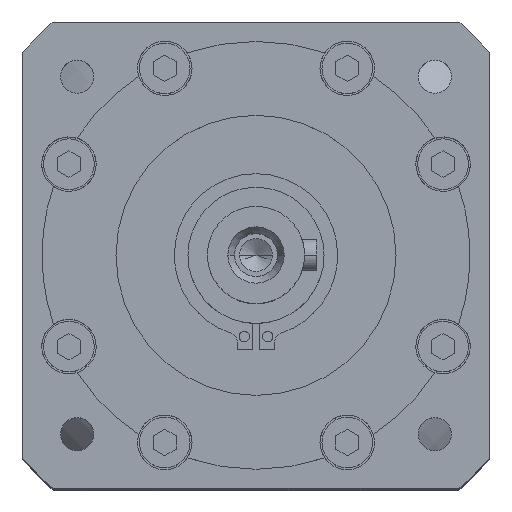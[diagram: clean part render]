
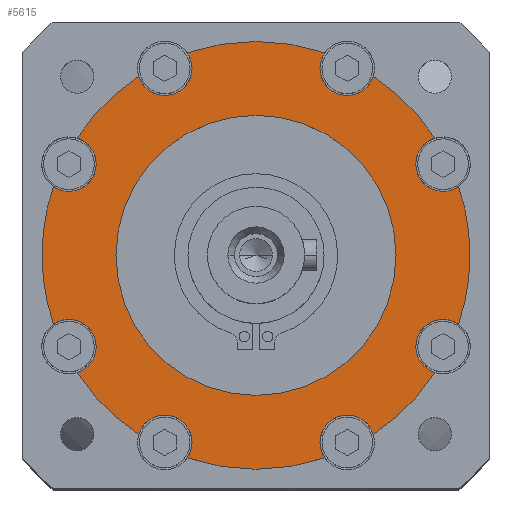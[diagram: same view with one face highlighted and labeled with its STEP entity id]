
A CAD part, top view. The second image highlights one B-rep face of the part: STEP entity #5615.
In plain terms, the highlighted planar face has unit normal (0, 0, 1).
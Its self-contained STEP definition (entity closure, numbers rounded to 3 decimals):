
#2824 = VERTEX_POINT('',#2825);
#2825 = CARTESIAN_POINT('',(-55.,0.,0.));
#2833 = EDGE_CURVE('',#2834,#2824,#2836,.T.);
#2834 = VERTEX_POINT('',#2835);
#2835 = CARTESIAN_POINT('',(-52.074,17.7,0.));
#2836 = CIRCLE('',#2837,55.);
#2837 = AXIS2_PLACEMENT_3D('',#2838,#2839,#2840);
#2838 = CARTESIAN_POINT('',(0.,0.,0.));
#2839 = DIRECTION('',(0.,-0.,1.));
#2840 = DIRECTION('',(1.,0.,0.));
#3782 = VERTEX_POINT('',#3783);
#3783 = CARTESIAN_POINT('',(-46.008,-30.137,0.));
#3816 = VERTEX_POINT('',#3817);
#3817 = CARTESIAN_POINT('',(-41.085,-23.453,0.));
#3823 = EDGE_CURVE('',#3782,#3816,#3824,.T.);
#3824 = CIRCLE('',#3825,7.);
#3825 = AXIS2_PLACEMENT_3D('',#3826,#3827,#3828);
#3826 = CARTESIAN_POINT('',(-48.085,-23.453,0.));
#3827 = DIRECTION('',(0.,0.,1.));
#3828 = DIRECTION('',(-1.,0.,0.));
#3841 = VERTEX_POINT('',#3842);
#3842 = CARTESIAN_POINT('',(-17.7,-52.074,0.));
#3875 = VERTEX_POINT('',#3876);
#3876 = CARTESIAN_POINT('',(-16.453,-48.085,0.));
#3882 = EDGE_CURVE('',#3841,#3875,#3883,.T.);
#3883 = CIRCLE('',#3884,7.);
#3884 = AXIS2_PLACEMENT_3D('',#3885,#3886,#3887);
#3885 = CARTESIAN_POINT('',(-23.453,-48.085,0.));
#3886 = DIRECTION('',(0.,0.,1.));
#3887 = DIRECTION('',(-1.,0.,0.));
#3942 = VERTEX_POINT('',#3943);
#3943 = CARTESIAN_POINT('',(46.008,-30.137,0.));
#3949 = EDGE_CURVE('',#3942,#3950,#3952,.T.);
#3950 = VERTEX_POINT('',#3951);
#3951 = CARTESIAN_POINT('',(41.085,-23.453,0.));
#3952 = CIRCLE('',#3953,7.);
#3953 = AXIS2_PLACEMENT_3D('',#3954,#3955,#3956);
#3954 = CARTESIAN_POINT('',(48.085,-23.453,0.));
#3955 = DIRECTION('',(0.,0.,-1.));
#3956 = DIRECTION('',(-1.,0.,0.));
#4001 = VERTEX_POINT('',#4002);
#4002 = CARTESIAN_POINT('',(17.7,-52.074,0.));
#4008 = EDGE_CURVE('',#4001,#4009,#4011,.T.);
#4009 = VERTEX_POINT('',#4010);
#4010 = CARTESIAN_POINT('',(16.453,-48.085,0.));
#4011 = CIRCLE('',#4012,7.);
#4012 = AXIS2_PLACEMENT_3D('',#4013,#4014,#4015);
#4013 = CARTESIAN_POINT('',(23.453,-48.085,0.));
#4014 = DIRECTION('',(0.,0.,-1.));
#4015 = DIRECTION('',(-1.,0.,0.));
#4127 = VERTEX_POINT('',#4128);
#4128 = CARTESIAN_POINT('',(-41.085,23.453,0.));
#4134 = EDGE_CURVE('',#4127,#2834,#4135,.T.);
#4135 = CIRCLE('',#4136,7.);
#4136 = AXIS2_PLACEMENT_3D('',#4137,#4138,#4139);
#4137 = CARTESIAN_POINT('',(-48.085,23.453,0.));
#4138 = DIRECTION('',(0.,0.,-1.));
#4139 = DIRECTION('',(-1.,0.,0.));
#4150 = VERTEX_POINT('',#4151);
#4151 = CARTESIAN_POINT('',(-30.137,46.008,0.));
#4186 = VERTEX_POINT('',#4187);
#4187 = CARTESIAN_POINT('',(-16.453,48.085,0.));
#4193 = EDGE_CURVE('',#4186,#4150,#4194,.T.);
#4194 = CIRCLE('',#4195,7.);
#4195 = AXIS2_PLACEMENT_3D('',#4196,#4197,#4198);
#4196 = CARTESIAN_POINT('',(-23.453,48.085,0.));
#4197 = DIRECTION('',(0.,0.,-1.));
#4198 = DIRECTION('',(-1.,0.,0.));
#4251 = VERTEX_POINT('',#4252);
#4252 = CARTESIAN_POINT('',(52.074,17.7,0.));
#4260 = EDGE_CURVE('',#4261,#4251,#4263,.T.);
#4261 = VERTEX_POINT('',#4262);
#4262 = CARTESIAN_POINT('',(41.085,23.453,0.));
#4263 = CIRCLE('',#4264,7.);
#4264 = AXIS2_PLACEMENT_3D('',#4265,#4266,#4267);
#4265 = CARTESIAN_POINT('',(48.085,23.453,0.));
#4266 = DIRECTION('',(0.,0.,1.));
#4267 = DIRECTION('',(-1.,0.,0.));
#4310 = VERTEX_POINT('',#4311);
#4311 = CARTESIAN_POINT('',(30.137,46.008,0.));
#4319 = EDGE_CURVE('',#4320,#4310,#4322,.T.);
#4320 = VERTEX_POINT('',#4321);
#4321 = CARTESIAN_POINT('',(16.453,48.085,0.));
#4322 = CIRCLE('',#4323,7.);
#4323 = AXIS2_PLACEMENT_3D('',#4324,#4325,#4326);
#4324 = CARTESIAN_POINT('',(23.453,48.085,0.));
#4325 = DIRECTION('',(0.,0.,1.));
#4326 = DIRECTION('',(-1.,0.,0.));
#4422 = VERTEX_POINT('',#4423);
#4423 = CARTESIAN_POINT('',(55.,0.,0.));
#4429 = EDGE_CURVE('',#4430,#4422,#4432,.T.);
#4430 = VERTEX_POINT('',#4431);
#4431 = CARTESIAN_POINT('',(52.074,-17.7,0.));
#4432 = CIRCLE('',#4433,55.);
#4433 = AXIS2_PLACEMENT_3D('',#4434,#4435,#4436);
#4434 = CARTESIAN_POINT('',(0.,0.,0.));
#4435 = DIRECTION('',(0.,-0.,1.));
#4436 = DIRECTION('',(1.,0.,0.));
#4455 = VERTEX_POINT('',#4456);
#4456 = CARTESIAN_POINT('',(36.,0.,0.));
#4462 = EDGE_CURVE('',#4463,#4455,#4465,.T.);
#4463 = VERTEX_POINT('',#4464);
#4464 = CARTESIAN_POINT('',(-36.,0.,0.));
#4465 = CIRCLE('',#4466,36.);
#4466 = AXIS2_PLACEMENT_3D('',#4467,#4468,#4469);
#4467 = CARTESIAN_POINT('',(0.,0.,0.));
#4468 = DIRECTION('',(0.,-0.,1.));
#4469 = DIRECTION('',(1.,0.,0.));
#5322 = EDGE_CURVE('',#4455,#4463,#5323,.T.);
#5323 = CIRCLE('',#5324,36.);
#5324 = AXIS2_PLACEMENT_3D('',#5325,#5326,#5327);
#5325 = CARTESIAN_POINT('',(0.,0.,0.));
#5326 = DIRECTION('',(0.,-0.,1.));
#5327 = DIRECTION('',(1.,0.,0.));
#5351 = VERTEX_POINT('',#5352);
#5352 = CARTESIAN_POINT('',(-30.137,-46.008,0.));
#5358 = EDGE_CURVE('',#3782,#5351,#5359,.T.);
#5359 = CIRCLE('',#5360,55.);
#5360 = AXIS2_PLACEMENT_3D('',#5361,#5362,#5363);
#5361 = CARTESIAN_POINT('',(0.,0.,0.));
#5362 = DIRECTION('',(0.,-0.,1.));
#5363 = DIRECTION('',(1.,0.,0.));
#5615 = ADVANCED_FACE('',(#5616,#5746),#5750,.F.);
#5616 = FACE_BOUND('',#5617,.T.);
#5617 = EDGE_LOOP('',(#5618,#5619,#5620,#5627,#5628,#5635,#5636,#5645,
    #5652,#5653,#5660,#5661,#5668,#5669,#5678,#5685,#5686,#5695,#5704,
    #5711,#5712,#5721,#5728,#5729,#5730,#5739));
#5618 = ORIENTED_EDGE('',*,*,#3823,.F.);
#5619 = ORIENTED_EDGE('',*,*,#5358,.T.);
#5620 = ORIENTED_EDGE('',*,*,#5621,.F.);
#5621 = EDGE_CURVE('',#3875,#5351,#5622,.T.);
#5622 = CIRCLE('',#5623,7.);
#5623 = AXIS2_PLACEMENT_3D('',#5624,#5625,#5626);
#5624 = CARTESIAN_POINT('',(-23.453,-48.085,0.));
#5625 = DIRECTION('',(0.,0.,1.));
#5626 = DIRECTION('',(-1.,0.,0.));
#5627 = ORIENTED_EDGE('',*,*,#3882,.F.);
#5628 = ORIENTED_EDGE('',*,*,#5629,.T.);
#5629 = EDGE_CURVE('',#3841,#4001,#5630,.T.);
#5630 = CIRCLE('',#5631,55.);
#5631 = AXIS2_PLACEMENT_3D('',#5632,#5633,#5634);
#5632 = CARTESIAN_POINT('',(0.,0.,0.));
#5633 = DIRECTION('',(0.,-0.,1.));
#5634 = DIRECTION('',(1.,0.,0.));
#5635 = ORIENTED_EDGE('',*,*,#4008,.T.);
#5636 = ORIENTED_EDGE('',*,*,#5637,.T.);
#5637 = EDGE_CURVE('',#4009,#5638,#5640,.T.);
#5638 = VERTEX_POINT('',#5639);
#5639 = CARTESIAN_POINT('',(30.137,-46.008,0.));
#5640 = CIRCLE('',#5641,7.);
#5641 = AXIS2_PLACEMENT_3D('',#5642,#5643,#5644);
#5642 = CARTESIAN_POINT('',(23.453,-48.085,0.));
#5643 = DIRECTION('',(0.,0.,-1.));
#5644 = DIRECTION('',(-1.,0.,0.));
#5645 = ORIENTED_EDGE('',*,*,#5646,.T.);
#5646 = EDGE_CURVE('',#5638,#3942,#5647,.T.);
#5647 = CIRCLE('',#5648,55.);
#5648 = AXIS2_PLACEMENT_3D('',#5649,#5650,#5651);
#5649 = CARTESIAN_POINT('',(0.,0.,0.));
#5650 = DIRECTION('',(0.,-0.,1.));
#5651 = DIRECTION('',(1.,0.,0.));
#5652 = ORIENTED_EDGE('',*,*,#3949,.T.);
#5653 = ORIENTED_EDGE('',*,*,#5654,.T.);
#5654 = EDGE_CURVE('',#3950,#4430,#5655,.T.);
#5655 = CIRCLE('',#5656,7.);
#5656 = AXIS2_PLACEMENT_3D('',#5657,#5658,#5659);
#5657 = CARTESIAN_POINT('',(48.085,-23.453,0.));
#5658 = DIRECTION('',(0.,0.,-1.));
#5659 = DIRECTION('',(-1.,0.,0.));
#5660 = ORIENTED_EDGE('',*,*,#4429,.T.);
#5661 = ORIENTED_EDGE('',*,*,#5662,.T.);
#5662 = EDGE_CURVE('',#4422,#4251,#5663,.T.);
#5663 = CIRCLE('',#5664,55.);
#5664 = AXIS2_PLACEMENT_3D('',#5665,#5666,#5667);
#5665 = CARTESIAN_POINT('',(0.,0.,0.));
#5666 = DIRECTION('',(0.,-0.,1.));
#5667 = DIRECTION('',(1.,0.,0.));
#5668 = ORIENTED_EDGE('',*,*,#4260,.F.);
#5669 = ORIENTED_EDGE('',*,*,#5670,.F.);
#5670 = EDGE_CURVE('',#5671,#4261,#5673,.T.);
#5671 = VERTEX_POINT('',#5672);
#5672 = CARTESIAN_POINT('',(46.008,30.137,0.));
#5673 = CIRCLE('',#5674,7.);
#5674 = AXIS2_PLACEMENT_3D('',#5675,#5676,#5677);
#5675 = CARTESIAN_POINT('',(48.085,23.453,0.));
#5676 = DIRECTION('',(0.,0.,1.));
#5677 = DIRECTION('',(-1.,0.,0.));
#5678 = ORIENTED_EDGE('',*,*,#5679,.T.);
#5679 = EDGE_CURVE('',#5671,#4310,#5680,.T.);
#5680 = CIRCLE('',#5681,55.);
#5681 = AXIS2_PLACEMENT_3D('',#5682,#5683,#5684);
#5682 = CARTESIAN_POINT('',(0.,0.,0.));
#5683 = DIRECTION('',(0.,-0.,1.));
#5684 = DIRECTION('',(1.,0.,0.));
#5685 = ORIENTED_EDGE('',*,*,#4319,.F.);
#5686 = ORIENTED_EDGE('',*,*,#5687,.F.);
#5687 = EDGE_CURVE('',#5688,#4320,#5690,.T.);
#5688 = VERTEX_POINT('',#5689);
#5689 = CARTESIAN_POINT('',(17.7,52.074,0.));
#5690 = CIRCLE('',#5691,7.);
#5691 = AXIS2_PLACEMENT_3D('',#5692,#5693,#5694);
#5692 = CARTESIAN_POINT('',(23.453,48.085,0.));
#5693 = DIRECTION('',(0.,0.,1.));
#5694 = DIRECTION('',(-1.,0.,0.));
#5695 = ORIENTED_EDGE('',*,*,#5696,.T.);
#5696 = EDGE_CURVE('',#5688,#5697,#5699,.T.);
#5697 = VERTEX_POINT('',#5698);
#5698 = CARTESIAN_POINT('',(-17.7,52.074,0.));
#5699 = CIRCLE('',#5700,55.);
#5700 = AXIS2_PLACEMENT_3D('',#5701,#5702,#5703);
#5701 = CARTESIAN_POINT('',(0.,0.,0.));
#5702 = DIRECTION('',(0.,-0.,1.));
#5703 = DIRECTION('',(1.,0.,0.));
#5704 = ORIENTED_EDGE('',*,*,#5705,.T.);
#5705 = EDGE_CURVE('',#5697,#4186,#5706,.T.);
#5706 = CIRCLE('',#5707,7.);
#5707 = AXIS2_PLACEMENT_3D('',#5708,#5709,#5710);
#5708 = CARTESIAN_POINT('',(-23.453,48.085,0.));
#5709 = DIRECTION('',(0.,0.,-1.));
#5710 = DIRECTION('',(-1.,0.,0.));
#5711 = ORIENTED_EDGE('',*,*,#4193,.T.);
#5712 = ORIENTED_EDGE('',*,*,#5713,.T.);
#5713 = EDGE_CURVE('',#4150,#5714,#5716,.T.);
#5714 = VERTEX_POINT('',#5715);
#5715 = CARTESIAN_POINT('',(-46.008,30.137,0.));
#5716 = CIRCLE('',#5717,55.);
#5717 = AXIS2_PLACEMENT_3D('',#5718,#5719,#5720);
#5718 = CARTESIAN_POINT('',(0.,0.,0.));
#5719 = DIRECTION('',(0.,-0.,1.));
#5720 = DIRECTION('',(1.,0.,0.));
#5721 = ORIENTED_EDGE('',*,*,#5722,.T.);
#5722 = EDGE_CURVE('',#5714,#4127,#5723,.T.);
#5723 = CIRCLE('',#5724,7.);
#5724 = AXIS2_PLACEMENT_3D('',#5725,#5726,#5727);
#5725 = CARTESIAN_POINT('',(-48.085,23.453,0.));
#5726 = DIRECTION('',(0.,0.,-1.));
#5727 = DIRECTION('',(-1.,0.,0.));
#5728 = ORIENTED_EDGE('',*,*,#4134,.T.);
#5729 = ORIENTED_EDGE('',*,*,#2833,.T.);
#5730 = ORIENTED_EDGE('',*,*,#5731,.T.);
#5731 = EDGE_CURVE('',#2824,#5732,#5734,.T.);
#5732 = VERTEX_POINT('',#5733);
#5733 = CARTESIAN_POINT('',(-52.074,-17.7,0.));
#5734 = CIRCLE('',#5735,55.);
#5735 = AXIS2_PLACEMENT_3D('',#5736,#5737,#5738);
#5736 = CARTESIAN_POINT('',(0.,0.,0.));
#5737 = DIRECTION('',(0.,-0.,1.));
#5738 = DIRECTION('',(1.,0.,0.));
#5739 = ORIENTED_EDGE('',*,*,#5740,.F.);
#5740 = EDGE_CURVE('',#3816,#5732,#5741,.T.);
#5741 = CIRCLE('',#5742,7.);
#5742 = AXIS2_PLACEMENT_3D('',#5743,#5744,#5745);
#5743 = CARTESIAN_POINT('',(-48.085,-23.453,0.));
#5744 = DIRECTION('',(0.,0.,1.));
#5745 = DIRECTION('',(-1.,0.,0.));
#5746 = FACE_BOUND('',#5747,.T.);
#5747 = EDGE_LOOP('',(#5748,#5749));
#5748 = ORIENTED_EDGE('',*,*,#5322,.F.);
#5749 = ORIENTED_EDGE('',*,*,#4462,.F.);
#5750 = PLANE('',#5751);
#5751 = AXIS2_PLACEMENT_3D('',#5752,#5753,#5754);
#5752 = CARTESIAN_POINT('',(0.,36.,0.));
#5753 = DIRECTION('',(0.,0.,-1.));
#5754 = DIRECTION('',(0.,-1.,0.));
